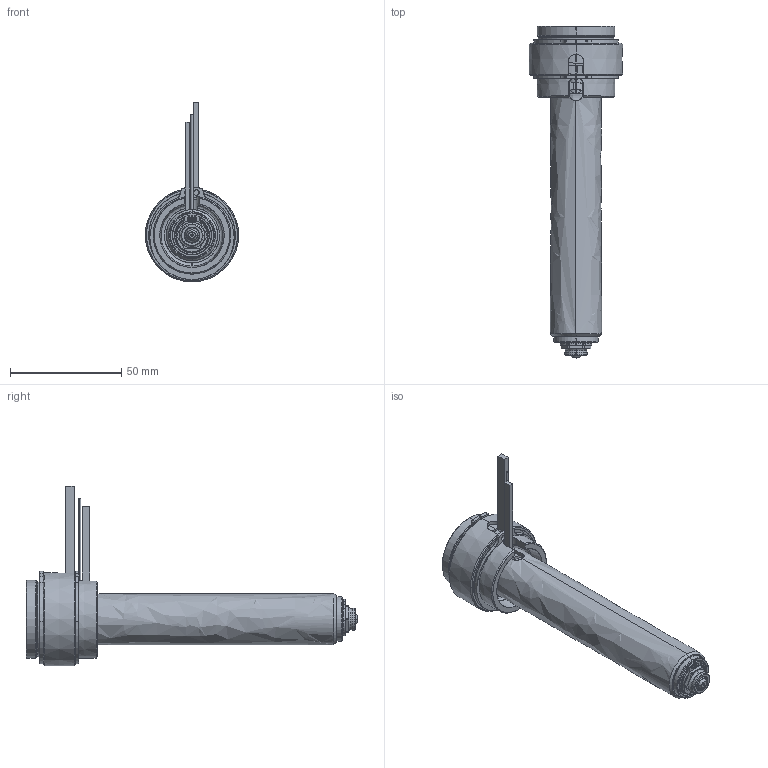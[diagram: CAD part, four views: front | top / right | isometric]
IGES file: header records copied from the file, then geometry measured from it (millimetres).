
Start section: SolidWorks IGES file using analytic representation for surfaces
Global section: file name: C:\Documents and Settings\ws-20\Desktop\TEM\UGER3553-S-A-1 [Øb-1.10  ØC-7.0].IGS; native system: SolidWorks 2012; preprocessor: SolidWorks 2012; author: ws-20; date: 120410.101203; units: millimetre
Bounding box: 42 x 149.4 x 80.9 mm (x, y, z)
Surface area: 37817.7 mm2 (no closed solid volume)
Topology: 0 solids, 0 shells, 205 faces, 3570 edges, 3570 vertices
Faces by surface type: revolution 130, bspline 75
